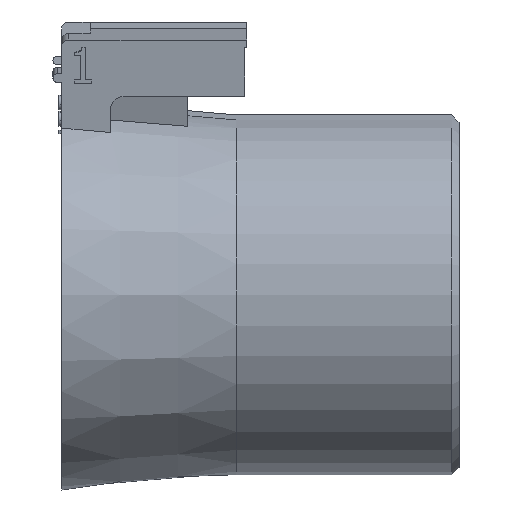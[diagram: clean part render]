
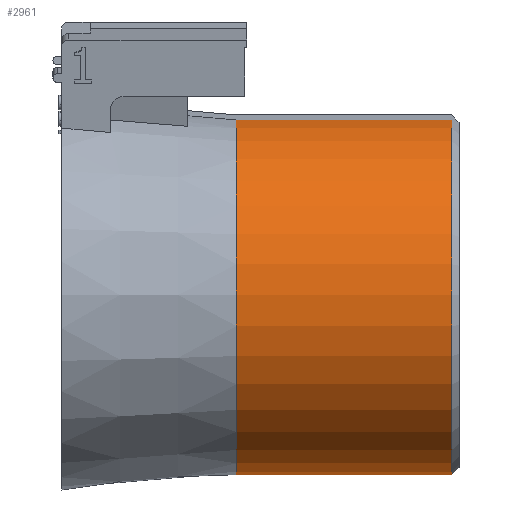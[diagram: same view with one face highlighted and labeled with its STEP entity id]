
A CAD part, front view. The second image highlights one B-rep face of the part: STEP entity #2961.
In plain terms, the highlighted cylindrical face has radius 12.5 mm (diameter 25 mm), a partial arc.
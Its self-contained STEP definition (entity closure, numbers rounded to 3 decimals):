
#49=CYLINDRICAL_SURFACE('',#3134,12.5);
#88=CIRCLE('',#3131,12.5);
#91=CIRCLE('',#3135,12.5);
#435=FACE_OUTER_BOUND('',#600,.T.);
#600=EDGE_LOOP('',(#2596,#2597,#2598,#2599));
#854=LINE('',#5023,#1126);
#879=LINE('',#5091,#1151);
#1126=VECTOR('',#3614,10.);
#1151=VECTOR('',#3661,10.);
#1499=VERTEX_POINT('',#5020);
#1500=VERTEX_POINT('',#5022);
#1520=VERTEX_POINT('',#5072);
#1525=VERTEX_POINT('',#5090);
#1874=EDGE_CURVE('',#1500,#1499,#854,.T.);
#1901=EDGE_CURVE('',#1520,#1499,#88,.T.);
#1907=EDGE_CURVE('',#1525,#1520,#879,.T.);
#1908=EDGE_CURVE('',#1500,#1525,#91,.T.);
#2596=ORIENTED_EDGE('',*,*,#1907,.F.);
#2597=ORIENTED_EDGE('',*,*,#1908,.F.);
#2598=ORIENTED_EDGE('',*,*,#1874,.T.);
#2599=ORIENTED_EDGE('',*,*,#1901,.F.);
#2961=ADVANCED_FACE('',(#435),#49,.T.);
#3131=AXIS2_PLACEMENT_3D('',#5077,#3651,#3652);
#3134=AXIS2_PLACEMENT_3D('',#5089,#3659,#3660);
#3135=AXIS2_PLACEMENT_3D('',#5092,#3662,#3663);
#3614=DIRECTION('',(-1.,0.,0.));
#3651=DIRECTION('center_axis',(-1.,0.,0.));
#3652=DIRECTION('ref_axis',(0.,-0.985,-0.174));
#3659=DIRECTION('center_axis',(-1.,0.,0.));
#3660=DIRECTION('ref_axis',(0.,-0.985,-0.174));
#3661=DIRECTION('',(-1.,0.,0.));
#3662=DIRECTION('center_axis',(1.,0.,0.));
#3663=DIRECTION('ref_axis',(0.,0.985,0.174));
#5020=CARTESIAN_POINT('',(11.43,-4.063,12.145));
#5022=CARTESIAN_POINT('',(26.5,-4.063,12.145));
#5023=CARTESIAN_POINT('',(19.215,-4.063,12.145));
#5072=CARTESIAN_POINT('',(11.43,0.14,-12.499));
#5077=CARTESIAN_POINT('Origin',(11.43,-1.893,-0.166));
#5089=CARTESIAN_POINT('Origin',(19.215,-1.893,-0.166));
#5090=CARTESIAN_POINT('',(26.5,0.14,-12.499));
#5091=CARTESIAN_POINT('',(19.215,0.14,-12.499));
#5092=CARTESIAN_POINT('Origin',(26.5,-1.893,-0.166));
